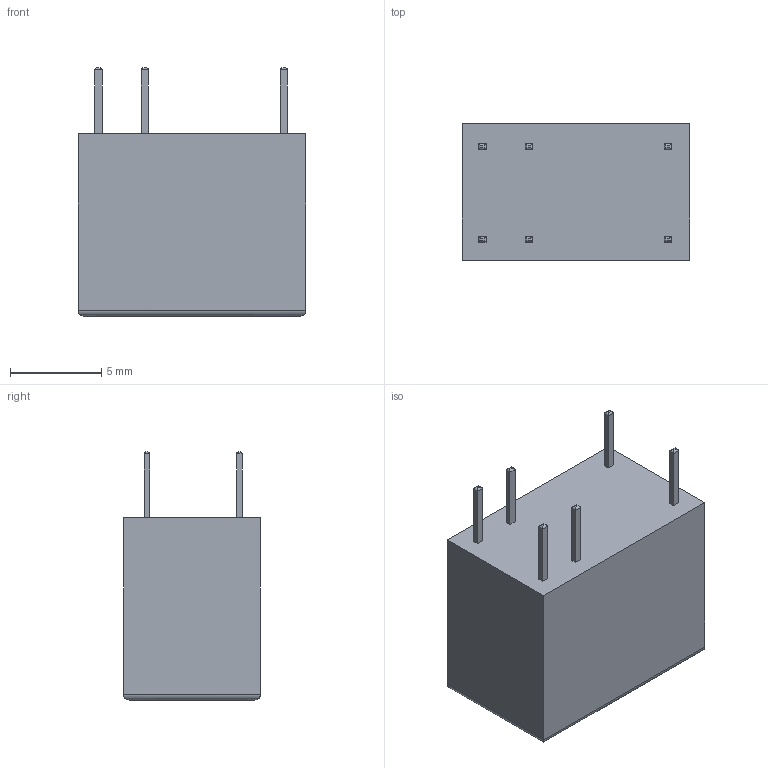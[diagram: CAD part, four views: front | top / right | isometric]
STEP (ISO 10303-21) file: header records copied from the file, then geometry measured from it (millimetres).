
FILE_DESCRIPTION(('FreeCAD Model'),'2;1');
FILE_NAME('C:/Users/Metaltex-99/Desktop/MB.stp','2021-04-26T13:28:34',( 'Engenharia Metaltex'),('Metaltex'), 'Open CASCADE STEP processor 7.3','FreeCAD','Unknown');
FILE_SCHEMA(('AUTOMOTIVE_DESIGN { 1 0 10303 214 1 1 1 1 }'));
Length unit declared in the file: millimetre
Products named in the file (1): MB
Bounding box: 12.5 x 7.5 x 13.6 mm (x, y, z)
Volume: 939.3 mm3; surface area: 612.1 mm2
Topology: 1 solids, 1 shells, 64 faces, 140 edges, 84 vertices
Faces by surface type: plane 36, cylinder 28
Entity records: 3885 total; most frequent: CARTESIAN_POINT 1017, DIRECTION 522, LINE 336, VECTOR 336, ORIENTED_EDGE 280, PCURVE 280, DEFINITIONAL_REPRESENTATION 280, EDGE_CURVE 140
